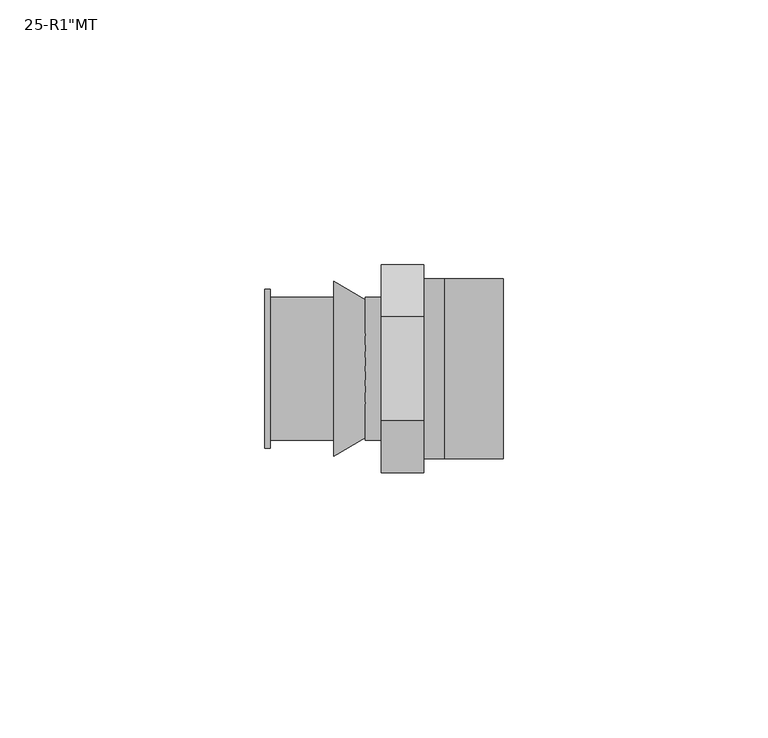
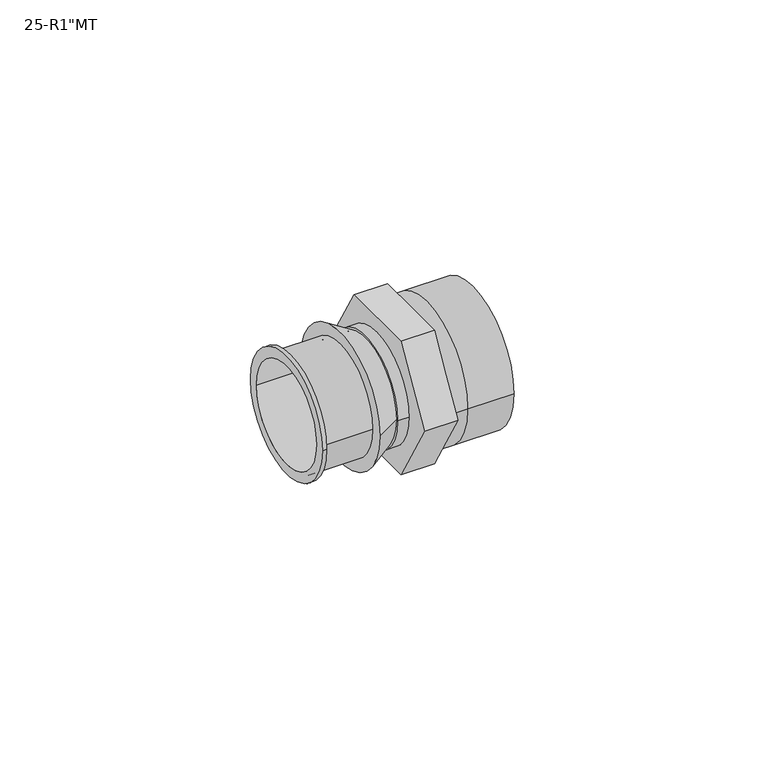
"""IFC4 building model written with IfcOpenShell, lengths in millimetres: pipe fitting geometry."""

from ifc_helpers import new_model, si_unit, point, frame, origin, origin_2d, place, context, project, spatial, polyline, circle_curve, trimmed, segment, composite_curve, outline, extrude, source, transform, mapped, element, save
from ifc_brep_helpers import plane_surface, cylinder_surface, revolved_surface, advanced_brep


def pipe_fitting_cb08376b(model_context):
    return source(origin(), model_context, "Body", "SolidModel", [
        advanced_brep(
        [(-4.0, -19.6299092, 0.0), (-4.0, -9.8149546, 17.0), (-4.0, 9.8149546, 17.0), (-4.0, 19.6299092, 0.0), (-4.0, 9.8149546, -17.0), (-4.0, -9.8149546, -17.0), (4.0, -19.6299092, 0.0), (4.0, -14.7224319, -8.5), (4.0, -17.0, 0.0), (4.0, -14.7224319, 8.5), (4.0, -9.8149546, -17.0), (4.0, 0.0, -17.0), (4.0, 9.8149546, -17.0), (4.0, 14.7224319, -8.5), (4.0, 19.6299092, 0.0), (4.0, 14.7224319, 8.5), (4.0, 17.0, 0.0), (4.0, 9.8149546, 17.0), (4.0, 0.0, 17.0), (4.0, -9.8149546, 17.0), (19.0, -17.0, 0.0), (19.0, 17.0, 0.0), (19.0, -13.0, 0.0), (19.0, 13.0, 0.0), (8.0, 17.0, 0.0), (8.0, -17.0, 0.0), (8.0, 13.0, 0.0), (8.0, -13.0, 0.0)],
        [
            (0, 1),
            (1, 2),
            (2, 3),
            (3, 4),
            (4, 5),
            (5, 0),
            (6, 7),
            (7, 8, circle_curve(frame((4.0, 0.0, 0.0), z_axis=(-1.0, 0.0, 0.0), x_axis=(0.0, 1.0, 0.0)), 17.0)),
            (8, 9, circle_curve(frame((4.0, 0.0, 0.0), z_axis=(-1.0, 0.0, 0.0), x_axis=(0.0, 1.0, 0.0)), 17.0)),
            (9, 6),
            (7, 10),
            (10, 11),
            (11, 7, circle_curve(frame((4.0, 0.0, 0.0), z_axis=(-1.0, 0.0, 0.0), x_axis=(0.0, 1.0, 0.0)), 17.0)),
            (11, 12),
            (12, 13),
            (13, 11, circle_curve(frame((4.0, 0.0, 0.0), z_axis=(-1.0, 0.0, 0.0), x_axis=(0.0, 1.0, 0.0)), 17.0)),
            (13, 14),
            (14, 15),
            (15, 16, circle_curve(frame((4.0, 0.0, 0.0), z_axis=(-1.0, 0.0, 0.0), x_axis=(0.0, 1.0, 0.0)), 17.0)),
            (16, 13, circle_curve(frame((4.0, 0.0, 0.0), z_axis=(-1.0, 0.0, 0.0), x_axis=(0.0, 1.0, 0.0)), 17.0)),
            (15, 17),
            (17, 18),
            (18, 15, circle_curve(frame((4.0, 0.0, 0.0), z_axis=(-1.0, 0.0, 0.0), x_axis=(0.0, 1.0, 0.0)), 17.0)),
            (18, 19),
            (19, 9),
            (9, 18, circle_curve(frame((4.0, 0.0, 0.0), z_axis=(-1.0, 0.0, 0.0), x_axis=(0.0, 1.0, 0.0)), 17.0)),
            (0, 6),
            (19, 1),
            (17, 2),
            (14, 3),
            (12, 4),
            (10, 5),
            (20, 21, circle_curve(frame((19.0, 0.0, 0.0), z_axis=(1.0, 0.0, 0.0), x_axis=(0.0, 1.0, 0.0)), 17.0)),
            (21, 20, circle_curve(frame((19.0, 0.0, 0.0), z_axis=(1.0, 0.0, 0.0), x_axis=(0.0, 1.0, 0.0)), 17.0)),
            (22, 23, circle_curve(frame((19.0, 0.0, 0.0), z_axis=(-1.0, 0.0, 0.0), x_axis=(0.0, 1.0, 0.0)), 13.0)),
            (23, 22, circle_curve(frame((19.0, 0.0, 0.0), z_axis=(-1.0, 0.0, 0.0), x_axis=(0.0, 1.0, 0.0)), 13.0)),
            (21, 24),
            (24, 25, circle_curve(frame((8.0, 0.0, 0.0), z_axis=(1.0, 0.0, 0.0), x_axis=(0.0, 1.0, 0.0)), 17.0)),
            (25, 20),
            (25, 24, circle_curve(frame((8.0, 0.0, 0.0), z_axis=(1.0, 0.0, 0.0), x_axis=(0.0, 1.0, 0.0)), 17.0)),
            (23, 26),
            (26, 27, circle_curve(frame((8.0, 0.0, 0.0), z_axis=(-1.0, 0.0, 0.0), x_axis=(0.0, 1.0, 0.0)), 13.0)),
            (27, 22),
            (27, 26, circle_curve(frame((8.0, 0.0, 0.0), z_axis=(-1.0, 0.0, 0.0), x_axis=(0.0, 1.0, 0.0)), 13.0)),
            (8, 25),
            (24, 16),
        ],
        [
            plane_surface(frame((-4.0, 0.0, 0.0), z_axis=(-1.0, 0.0, 0.0), x_axis=(0.0, 0.0, 1.0))),
            plane_surface(frame((4.0, 0.0, 0.0), z_axis=(1.0, 0.0, 0.0), x_axis=(0.0, 0.0, 1.0))),
            plane_surface(frame((-4.0, -19.6299092, 0.0), z_axis=(0.0, -0.8660254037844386, 0.5000000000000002), x_axis=(1.0, 0.0, 0.0))),
            plane_surface(frame((-4.0, -9.8149546, 17.0), z_axis=(0.0, 0.0, 1.0), x_axis=(1.0, 0.0, 0.0))),
            plane_surface(frame((-4.0, 9.8149546, 17.0), z_axis=(0.0, 0.8660254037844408, 0.4999999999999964), x_axis=(1.0, 0.0, 0.0))),
            plane_surface(frame((-4.0, 19.6299092, 0.0), z_axis=(0.0, 0.8660254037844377, -0.5000000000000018), x_axis=(1.0, 0.0, 0.0))),
            plane_surface(frame((-4.0, 9.8149546, -17.0), z_axis=(0.0, 0.0, -1.0), x_axis=(1.0, 0.0, 0.0))),
            plane_surface(frame((-4.0, -9.8149546, -17.0), z_axis=(0.0, -0.8660254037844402, -0.4999999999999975), x_axis=(1.0, 0.0, 0.0))),
            plane_surface(frame((19.0, 0.0, 0.0), z_axis=(1.0, 0.0, 0.0), x_axis=(0.0, 0.0, 1.0))),
            cylinder_surface(frame((8.0, 0.0, 0.0), z_axis=(-1.0, 0.0, 0.0), x_axis=(0.0, 1.0, 0.0)), 17.0),
            revolved_surface(polyline([(19.0, 13.0, 0.0), (8.0, 13.0, 0.0)]), (8.0, 0.0, 0.0), (1.0, 0.0, 0.0)),
            plane_surface(frame((8.0, 0.0, 0.0), z_axis=(1.0, 0.0, 0.0), x_axis=(0.0, 0.0, 1.0))),
            cylinder_surface(frame((0.0, 0.0, 0.0), z_axis=(-1.0, 0.0, 0.0), x_axis=(0.0, 1.0, 0.0)), 17.0),
        ],
        [
            (0, [[1, 2, 3, 4, 5, 6]]),
            (1, [[7, 8, 9, 10]]),
            (1, [[11, 12, 13]]),
            (1, [[14, 15, 16]]),
            (1, [[17, 18, 19, 20]]),
            (1, [[21, 22, 23]]),
            (1, [[24, 25, 26]]),
            (2, [[-1, 27, -10, -25, 28]]),
            (3, [[-2, -28, -24, -22, 29]]),
            (4, [[-3, -29, -21, -18, 30]]),
            (5, [[-4, -30, -17, -15, 31]]),
            (6, [[-5, -31, -14, -12, 32]]),
            (7, [[-6, -32, -11, -7, -27]]),
            (8, [[33, 34], [35, 36]]),
            (9, [[-34, 37, 38, 39]]),
            (9, [[-33, -39, 40, -37]]),
            (10, [[-36, 41, 42, 43]]),
            (10, [[-35, -43, 44, -41]]),
            (11, [[-42, -44]]),
            (12, [[45, -38, 46, -19, -23, -26, -9]]),
            (12, [[-45, -8, -13, -16, -20, -46, -40]]),
        ],
    ),
        advanced_brep(
        [(-26.0, -15.0, 0.0), (-26.0, 15.0, 0.0), (-26.0, -12.5, 0.0), (-26.0, 12.5, 0.0), (-13.0, -13.5, 0.0), (-13.0, 13.5, 0.0), (-13.0, -12.5, 0.0), (-13.0, 12.5, 0.0), (-25.0, 13.5, 0.0), (-25.0, -13.5, 0.0), (-25.0, -15.0, 0.0), (-25.0, 15.0, 0.0)],
        [
            (0, 1, circle_curve(frame((-26.0, 0.0, 0.0), z_axis=(-1.0, 0.0, 0.0), x_axis=(0.0, 1.0, 0.0)), 15.0)),
            (1, 0, circle_curve(frame((-26.0, 0.0, 0.0), z_axis=(-1.0, 0.0, 0.0), x_axis=(0.0, 1.0, 0.0)), 15.0)),
            (2, 3, circle_curve(frame((-26.0, 0.0, 0.0), z_axis=(1.0, 0.0, 0.0), x_axis=(0.0, 1.0, 0.0)), 12.5)),
            (3, 2, circle_curve(frame((-26.0, 0.0, 0.0), z_axis=(1.0, 0.0, 0.0), x_axis=(0.0, 1.0, 0.0)), 12.5)),
            (4, 5, circle_curve(frame((-13.0, 0.0, 0.0), z_axis=(1.0, 0.0, 0.0), x_axis=(0.0, 1.0, 0.0)), 13.5)),
            (5, 4, circle_curve(frame((-13.0, 0.0, 0.0), z_axis=(1.0, 0.0, 0.0), x_axis=(0.0, 1.0, 0.0)), 13.5)),
            (6, 7, circle_curve(frame((-13.0, 0.0, 0.0), z_axis=(-1.0, 0.0, 0.0), x_axis=(0.0, 1.0, 0.0)), 12.5)),
            (7, 6, circle_curve(frame((-13.0, 0.0, 0.0), z_axis=(-1.0, 0.0, 0.0), x_axis=(0.0, 1.0, 0.0)), 12.5)),
            (2, 6),
            (7, 3),
            (5, 8),
            (8, 9, circle_curve(frame((-25.0, 0.0, 0.0), z_axis=(1.0, 0.0, 0.0), x_axis=(0.0, 1.0, 0.0)), 13.5)),
            (9, 4),
            (9, 8, circle_curve(frame((-25.0, 0.0, 0.0), z_axis=(1.0, 0.0, 0.0), x_axis=(0.0, 1.0, 0.0)), 13.5)),
            (10, 11, circle_curve(frame((-25.0, 0.0, 0.0), z_axis=(1.0, 0.0, 0.0), x_axis=(0.0, 1.0, 0.0)), 15.0)),
            (11, 10, circle_curve(frame((-25.0, 0.0, 0.0), z_axis=(1.0, 0.0, 0.0), x_axis=(0.0, 1.0, 0.0)), 15.0)),
            (0, 10),
            (11, 1),
        ],
        [
            plane_surface(frame((-26.0, 0.0, 0.0), z_axis=(-1.0, 0.0, 0.0), x_axis=(0.0, 0.0, 1.0))),
            plane_surface(frame((-13.0, 0.0, 0.0), z_axis=(1.0, 0.0, 0.0), x_axis=(0.0, 0.0, 1.0))),
            revolved_surface(polyline([(-13.0, 12.5, 0.0), (-26.0, 12.5, 0.0)]), (-26.0, 0.0, 0.0), (1.0, 0.0, 0.0)),
            cylinder_surface(frame((-26.0, 0.0, 0.0), z_axis=(-1.0, 0.0, 0.0), x_axis=(0.0, 1.0, 0.0)), 13.5),
            plane_surface(frame((-25.0, 0.0, 0.0), z_axis=(1.0, 0.0, 0.0), x_axis=(0.0, 0.0, 1.0))),
            cylinder_surface(frame((-26.0, 0.0, 0.0), z_axis=(-1.0, 0.0, 0.0), x_axis=(0.0, 1.0, 0.0)), 15.0),
        ],
        [
            (0, [[1, 2], [3, 4]]),
            (1, [[5, 6], [7, 8]]),
            (2, [[-3, 9, -8, 10]]),
            (2, [[-4, -10, -7, -9]]),
            (3, [[-6, 11, 12, 13]]),
            (3, [[-5, -13, 14, -11]]),
            (4, [[15, 16], [-12, -14]]),
            (5, [[-1, 17, -16, 18]]),
            (5, [[-2, -18, -15, -17]]),
        ],
    ),
        advanced_brep(
        [(-7.0, -13.0, 0.0), (-7.0, 13.0, 0.0), (-7.0, 12.5, 0.0), (-7.0, -12.5, 0.0), (-13.0, -16.5, 0.0), (-13.0, 16.5, 0.0), (-13.0, -12.5, 0.0), (-13.0, 12.5, 0.0)],
        [
            (0, 1, circle_curve(frame((-7.0, 0.0, 0.0), z_axis=(1.0, 0.0, 0.0), x_axis=(0.0, -1.0, 0.0)), 13.0)),
            (1, 0, circle_curve(frame((-7.0, 0.0, 0.0), z_axis=(1.0, 0.0, 0.0), x_axis=(0.0, 1.0, 0.0)), 13.0)),
            (2, 3, circle_curve(frame((-7.0, 0.0, 0.0), z_axis=(-1.0, 0.0, 0.0), x_axis=(0.0, 1.0, 0.0)), 12.5)),
            (3, 2, circle_curve(frame((-7.0, 0.0, 0.0), z_axis=(-1.0, 0.0, 0.0), x_axis=(0.0, 1.0, 0.0)), 12.5)),
            (4, 5, circle_curve(frame((-13.0, 0.0, 0.0), z_axis=(-1.0, 0.0, 0.0), x_axis=(0.0, 1.0, 0.0)), 16.5)),
            (5, 4, circle_curve(frame((-13.0, 0.0, 0.0), z_axis=(-1.0, 0.0, 0.0), x_axis=(0.0, -1.0, 0.0)), 16.5)),
            (6, 7, circle_curve(frame((-13.0, 0.0, 0.0), z_axis=(1.0, 0.0, 0.0), x_axis=(0.0, 1.0, 0.0)), 12.5)),
            (7, 6, circle_curve(frame((-13.0, 0.0, 0.0), z_axis=(1.0, 0.0, 0.0), x_axis=(0.0, 1.0, 0.0)), 12.5)),
            (0, 4),
            (5, 1),
            (2, 7),
            (6, 3),
        ],
        [
            plane_surface(frame((-7.0, 0.0, 0.0), z_axis=(1.0, 0.0, 0.0), x_axis=(0.0, 0.0, -1.0))),
            plane_surface(frame((-13.0, 0.0, 0.0), z_axis=(-1.0, 0.0, 0.0), x_axis=(0.0, 0.0, -1.0))),
            revolved_surface(polyline([(-7.000000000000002, -13.000000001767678, 0.0), (-13.000000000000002, -16.5, 0.0)]), (15.2857143, 0.0, 0.0), (-1.0, 0.0, 0.0)),
            revolved_surface(polyline([(-7.000000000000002, 13.000000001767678, 0.0), (-13.000000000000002, 16.5, 0.0)]), (15.2857143, 0.0, 0.0), (-1.0, 0.0, 0.0)),
            revolved_surface(polyline([(-7.0, 12.5, 0.0), (-13.0, 12.5, 0.0)]), (-13.0, 0.0, 0.0), (1.0, 0.0, 0.0)),
        ],
        [
            (0, [[1, 2], [3, 4]]),
            (1, [[5, 6], [7, 8]]),
            (2, [[-1, 9, -6, 10]]),
            (3, [[-2, -10, -5, -9]]),
            (4, [[11, -7, 12, -3]]),
            (4, [[-11, -4, -12, -8]]),
        ],
    ),
        extrude(outline(composite_curve([segment(trimmed(circle_curve(origin_2d(), 13.5), [point((-13.5, 0.0))], [point((13.5, 0.0))], False, "CARTESIAN"), True, "CONTINUOUS"), segment(trimmed(circle_curve(origin_2d(), 13.5), [point((13.5, 0.0))], [point((-13.5, 0.0))], False, "CARTESIAN"), True, "CONTINUOUS")], self_intersect=False)), frame((-7.0, 0.0, 0.0), z_axis=(1.0, 0.0, 0.0), x_axis=(0.0, 1.0, 0.0)), (0.0, 0.0, 1.0), 3.0),
    ])


if __name__ == "__main__":
    model = new_model("IFC4")
    model_context = context("Model", 3, world=origin())
    ifc_project = project(units=[si_unit("LENGTHUNIT", "METRE", prefix="MILLI")], contexts=[model_context])
    site = spatial("IfcSite", under=ifc_project)
    building = spatial("IfcBuilding", under=site)
    placement = place(None, origin())
    pipe_fitting_shape = pipe_fitting_cb08376b(model_context)
    element("IfcPipeFitting", 1, ObjectType="SuperPipe_AdapterMT : 25-R1\"MT", at=placement, inside=building, context=model_context, shape_type="MappedRepresentation", body=[
        mapped(pipe_fitting_shape, transform((0.0, 0.0, 0.0), x_axis=(1.0, 0.0, 0.0), y_axis=(0.0, 1.0, 0.0), z_axis=(0.0, 0.0, 1.0))),
    ])
    save(model, "model.ifc")
